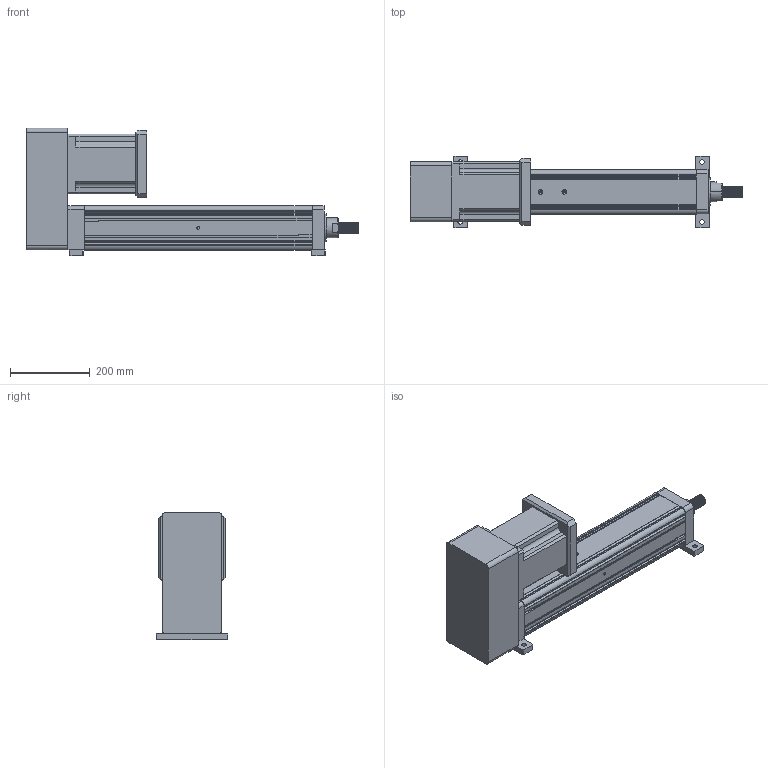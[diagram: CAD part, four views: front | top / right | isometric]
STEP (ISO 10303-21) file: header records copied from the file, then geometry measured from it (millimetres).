
FILE_DESCRIPTION (( 'STEP AP203' ), '1' );
FILE_NAME ('YRJ110-L400-H2K1.STEP', '2020-01-04T06:08:59', ( 'User' ), ( 'China' ), 'SwSTEP 2.0', 'SolidWorks 2016', '' );
FILE_SCHEMA (( 'CONFIG_CONTROL_DESIGN' ));
Length unit declared in the file: millimetre
Products named in the file (7): H2-110-2; K1-110; YRJ110-L400-H2K1; 095-100俴最倰第; 萇儂碟-110; 142熬厒儂; H2-110-1
Assembly tree (6 placements, depth 2):
  YRJ110-L400-H2K1
    095-100俴最倰第
    萇儂碟-110
    142熬厒儂
    H2-110-1
    H2-110-2
    K1-110
Bounding box: 831 x 180 x 320 mm (x, y, z)
Volume: 12340874.7 mm3; surface area: 1007047.3 mm2
Topology: 6 solids, 6 shells, 373 faces, 1033 edges, 668 vertices
Faces by surface type: plane 186, cylinder 156, cone 27, bspline 4
Entity records: 20550 total; most frequent: CARTESIAN_POINT 10416, ORIENTED_EDGE 2034, DIRECTION 1879, EDGE_CURVE 1017, VERTEX_POINT 668, VECTOR 657, LINE 657, AXIS2_PLACEMENT_3D 611
